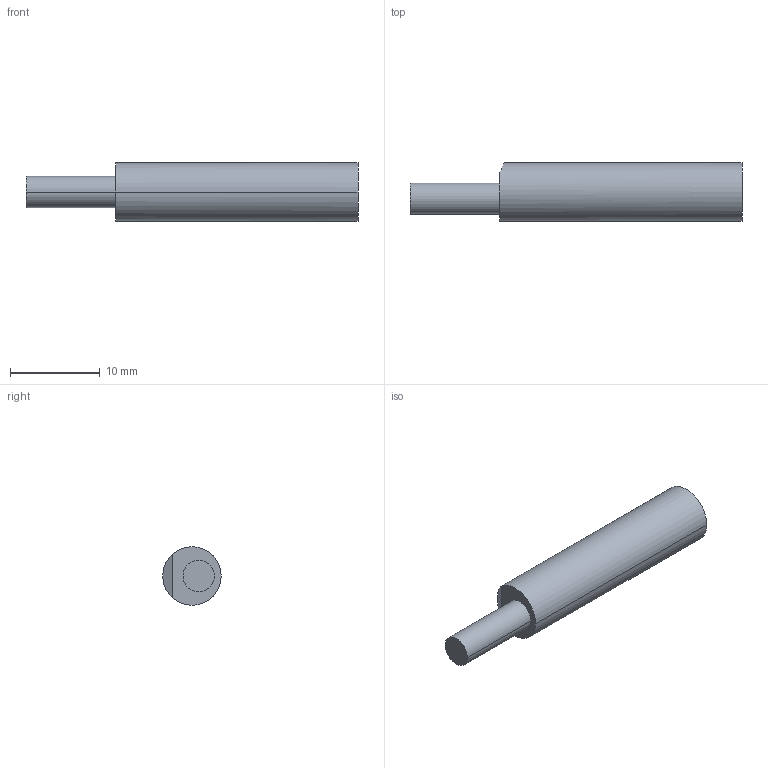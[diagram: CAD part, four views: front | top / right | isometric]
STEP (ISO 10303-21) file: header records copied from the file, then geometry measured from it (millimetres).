
FILE_DESCRIPTION( ( '' ), '1' );
FILE_NAME( '//partserver001.servicenet/client_exchange/iodir/jobs/output/wkb15102655_no6/STEP/it5042_2_03.stp', '2009-03-17T06:53:08', ( '' ), ( '' ), ' ', ' ', ' ' );
FILE_SCHEMA( ( 'CONFIG_CONTROL_DESIGN' ) );
Length unit declared in the file: millimetre
Products named in the file (1): 1
Bounding box: 37 x 6.5 x 6.5 mm (x, y, z)
Volume: 991.4 mm3; surface area: 726.3 mm2
Topology: 1 solids, 1 shells, 8 faces, 15 edges, 10 vertices
Faces by surface type: cylinder 4, plane 4
Entity records: 253 total; most frequent: DIRECTION 43, CARTESIAN_POINT 34, ORIENTED_EDGE 30, AXIS2_PLACEMENT_3D 19, EDGE_CURVE 15, VERTEX_POINT 10, EDGE_LOOP 9, ADVANCED_FACE 8
